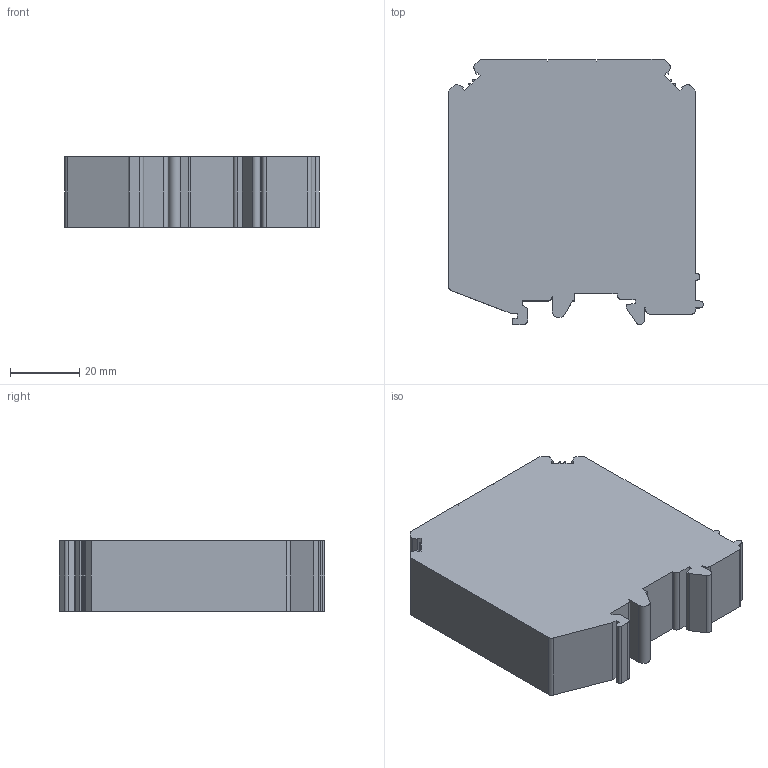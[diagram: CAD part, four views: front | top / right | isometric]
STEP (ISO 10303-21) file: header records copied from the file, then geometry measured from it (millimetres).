
FILE_DESCRIPTION(/* description */ (''),/* implementation_level */ '2;1');
FILE_NAME(/* name */ 'JUT1-50.stp',/* time_stamp */ '2023-02-14T15:28:37+08:00',/* author */ (''),/* organization */ (''),/* preprocessor_version */ 'ST-DEVELOPER v16.7',/* originating_system */ 'SIEMENS PLM Software NX 12.0',/* authorisation */ '');
FILE_SCHEMA (('AUTOMOTIVE_DESIGN { 1 0 10303 214 3 1 1 1 }'));
Length unit declared in the file: inch
Products named in the file (1): Admi01CC23451nvh
Bounding box: 73.5 x 76.5 x 20.2 mm (x, y, z)
Volume: 98040.2 mm3; surface area: 17724.8 mm2
Topology: 1 solids, 1 shells, 99 faces, 285 edges, 190 vertices
Faces by surface type: plane 75, cylinder 24
Entity records: 3261 total; most frequent: CARTESIAN_POINT 575, ORIENTED_EDGE 570, DIRECTION 533, EDGE_CURVE 285, LINE 237, VECTOR 237, VERTEX_POINT 190, AXIS2_PLACEMENT_3D 148
